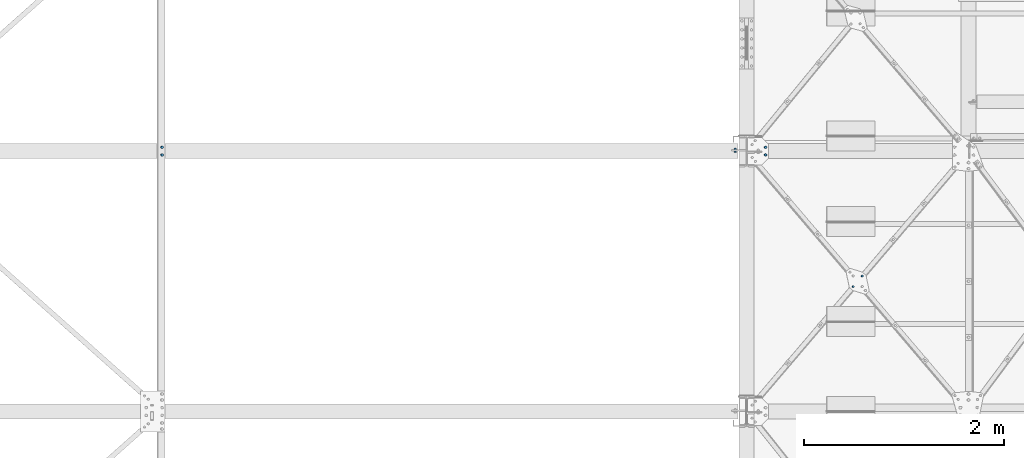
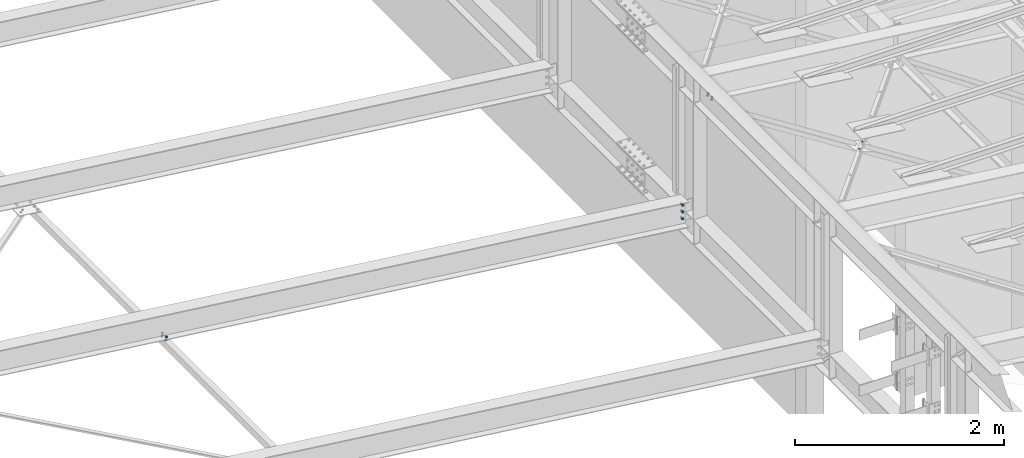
# One storey, part 374 of 3134: 4 mechanical fasteners, 4 elements without a shape of their own.
"""IFC2X3 building model written with IfcOpenShell, lengths in millimetres."""

from ifc_helpers import new_model, si_unit, frame, origin_with_axes, place, context, subcontext, project, spatial, faceted_brep, source, transform, mapped, material, type_object, element, aggregate, save


model = new_model("IFC2X3")

# Units and contexts
model_context = context("Model", 3, precision=1e-05, world=origin_with_axes())
body_context = subcontext(model_context, "Body", "Model", "MODEL_VIEW")
ifc_project = project(units=[si_unit("LENGTHUNIT", "METRE", prefix="MILLI"), si_unit("AREAUNIT", "SQUARE_METRE"), si_unit("VOLUMEUNIT", "CUBIC_METRE"), si_unit("MASSUNIT", "GRAM", prefix="KILO"), si_unit("TIMEUNIT", "SECOND"), si_unit("PLANEANGLEUNIT", "RADIAN"), si_unit("SOLIDANGLEUNIT", "STERADIAN"), si_unit("THERMODYNAMICTEMPERATUREUNIT", "DEGREE_CELSIUS"), si_unit("LUMINOUSINTENSITYUNIT", "LUMEN")], contexts=[model_context])

# Site, building, storey
site_placement = place(None, origin_with_axes())
site = spatial("IfcSite", under=ifc_project, at=site_placement, CompositionType="ELEMENT")
building_placement = place(site_placement, origin_with_axes())
building = spatial("IfcBuilding", under=site, at=building_placement, Name="Undefined", CompositionType="ELEMENT")
storey_placement = place(building_placement, origin_with_axes())
storey = spatial("IfcBuildingStorey", under=building, at=storey_placement, Name="Undefined", CompositionType="ELEMENT", Elevation=0.0)

# Assembly, mechanical fastener
assembly_1_placement = place(storey_placement, origin_with_axes())
assembly_1 = element("IfcElementAssembly", 1, at=assembly_1_placement, inside=storey, Name="300", AssemblyPlace="NOTDEFINED", PredefinedType="RIGID_FRAME")
ifc_material = material(Name="8.8")
mechanical_fastener_type = type_object("IfcMechanicalFastenerType", Name="Bolt assembly")
shared_shape_1 = source(origin_with_axes(), body_context, "Body", "Brep", [
    faceted_brep([(13.856406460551, -13.0499999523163, 0.0), (6.92820323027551, -13.0499999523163, 12.0), (-6.92820323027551, -13.0499999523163, 12.0), (-13.856406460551, -13.0499999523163, 1.69692038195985e-15), (-6.92820323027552, -13.0499999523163, -12.0), (6.9282032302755, -13.0499999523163, -12.0), (6.9282032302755, -3.04999995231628, -12.0), (-6.92820323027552, -3.04999995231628, -12.0), (-13.856406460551, -3.04999995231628, 1.69692038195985e-15), (-6.92820323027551, -3.04999995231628, 12.0), (6.92820323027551, -3.04999995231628, 12.0), (13.856406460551, -3.04999995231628, 0.0), (8.0, -3.04999995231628, 0.0), (6.92820323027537, -3.04999995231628, 4.00000000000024), (3.99999999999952, -3.04999995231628, 6.92820323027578), (-8.29068785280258e-13, -3.04999995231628, 8.0), (-4.00000000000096, -3.04999995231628, 6.92820323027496), (-6.9282032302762, -3.04999995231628, 3.99999999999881), (-8.0, -3.04999995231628, -1.65813757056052e-12), (-6.92820323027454, -3.04999995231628, -4.00000000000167), (-3.99999999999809, -3.04999995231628, -6.92820323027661), (2.47832457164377e-12, -3.04999995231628, -8.0), (4.00000000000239, -3.04999995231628, -6.92820323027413), (6.92820323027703, -3.04999995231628, -3.99999999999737), (6.92820323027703, 31.9500000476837, -3.99999999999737), (4.00000000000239, 31.9500000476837, -6.92820323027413), (2.47832457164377e-12, 31.9500000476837, -8.0), (-3.99999999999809, 31.9500000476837, -6.92820323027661), (-6.92820323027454, 31.9500000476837, -4.00000000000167), (-8.0, 31.9500000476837, -1.65813757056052e-12), (-6.9282032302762, 31.9500000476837, 3.99999999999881), (-4.00000000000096, 31.9500000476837, 6.92820323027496), (-8.29068785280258e-13, 31.9500000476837, 8.0), (3.99999999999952, 31.9500000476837, 6.92820323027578), (6.92820323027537, 31.9500000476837, 4.00000000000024), (8.0, 31.9500000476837, 0.0), (13.856406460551, 13.0500000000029, 0.0), (6.92820323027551, 13.0500000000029, 12.0), (-6.92820323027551, 13.0500000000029, 12.0), (-13.856406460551, 13.0500000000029, 1.69692038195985e-15), (-6.92820323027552, 13.0500000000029, -12.0), (6.9282032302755, 13.0500000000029, -12.0), (6.9282032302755, 26.0500000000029, -12.0), (-6.92820323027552, 26.0500000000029, -12.0), (-13.856406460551, 26.0500000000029, 1.69692038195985e-15), (-6.92820323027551, 26.0500000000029, 12.0), (6.92820323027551, 26.0500000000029, 12.0), (13.856406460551, 26.0500000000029, 0.0)], [[[0, 1, 2, 3, 4, 5]], [[6, 7, 8, 9, 10, 11]], [[0, 11, 10, 1]], [[1, 10, 9, 2]], [[2, 9, 8, 3]], [[3, 8, 7, 4]], [[4, 7, 6, 5]], [[5, 6, 11, 0]], [[12, 13, 14, 15, 16, 17, 18, 19, 20, 21, 22, 23]], [[24, 25, 26, 27, 28, 29, 30, 31, 32, 33, 34, 35]], [[12, 35, 34, 13]], [[13, 34, 33, 14]], [[14, 33, 32, 15]], [[15, 32, 31, 16]], [[16, 31, 30, 17]], [[17, 30, 29, 18]], [[18, 29, 28, 19]], [[19, 28, 27, 20]], [[20, 27, 26, 21]], [[21, 26, 25, 22]], [[22, 25, 24, 23]], [[23, 24, 35, 12]], [[36, 37, 38, 39, 40, 41]], [[42, 43, 44, 45, 46, 47]], [[36, 47, 46, 37]], [[37, 46, 45, 38]], [[38, 45, 44, 39]], [[39, 44, 43, 40]], [[40, 43, 42, 41]], [[41, 42, 47, 36]]]),
    faceted_brep([(9.0, 2.95000000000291, 0.0), (7.79422863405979, 2.95000000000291, 4.50000000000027), (4.49999999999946, 2.95000000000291, 7.79422863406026), (-9.3270238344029e-13, 2.95000000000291, 9.0), (-4.50000000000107, 2.95000000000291, 7.79422863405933), (-7.79422863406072, 2.95000000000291, 4.49999999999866), (-9.0, 2.95000000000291, -1.86540476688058e-12), (-7.79422863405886, 2.95000000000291, -4.50000000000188), (-4.49999999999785, 2.95000000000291, -7.79422863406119), (2.78811514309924e-12, 2.95000000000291, -9.0), (4.50000000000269, 2.95000000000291, -7.7942286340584), (7.79422863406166, 2.95000000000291, -4.49999999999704), (7.79422863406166, 13.0500000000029, -4.49999999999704), (4.50000000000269, 13.0500000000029, -7.7942286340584), (2.78811514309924e-12, 13.0500000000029, -9.0), (-4.49999999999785, 13.0500000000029, -7.79422863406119), (-7.79422863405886, 13.0500000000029, -4.50000000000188), (-9.0, 13.0500000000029, -1.86540476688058e-12), (-7.79422863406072, 13.0500000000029, 4.49999999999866), (-4.50000000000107, 13.0500000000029, 7.79422863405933), (-9.3270238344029e-13, 13.0500000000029, 9.0), (4.49999999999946, 13.0500000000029, 7.79422863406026), (7.79422863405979, 13.0500000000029, 4.50000000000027), (9.0, 13.0500000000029, 0.0), (9.0, -2.94999995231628, 0.0), (7.79422863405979, -2.94999995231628, 4.50000000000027), (4.49999999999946, -2.94999995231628, 7.79422863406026), (-9.3270238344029e-13, -2.94999995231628, 9.0), (-4.50000000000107, -2.94999995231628, 7.79422863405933), (-7.79422863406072, -2.94999995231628, 4.49999999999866), (-9.0, -2.94999995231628, -1.86540476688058e-12), (-7.79422863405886, -2.94999995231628, -4.50000000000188), (-4.49999999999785, -2.94999995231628, -7.79422863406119), (2.78811514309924e-12, -2.94999995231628, -9.0), (4.50000000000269, -2.94999995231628, -7.7942286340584), (7.79422863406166, -2.94999995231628, -4.49999999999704), (7.79422863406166, 3.14999995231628, -4.49999999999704), (4.50000000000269, 3.14999995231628, -7.7942286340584), (2.78811514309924e-12, 3.14999995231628, -9.0), (-4.49999999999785, 3.14999995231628, -7.79422863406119), (-7.79422863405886, 3.14999995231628, -4.50000000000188), (-9.0, 3.14999995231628, -1.86540476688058e-12), (-7.79422863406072, 3.14999995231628, 4.49999999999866), (-4.50000000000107, 3.14999995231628, 7.79422863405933), (-9.3270238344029e-13, 3.14999995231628, 9.0), (4.49999999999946, 3.14999995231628, 7.79422863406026), (7.79422863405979, 3.14999995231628, 4.50000000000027), (9.0, 3.14999995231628, 0.0)], [[[0, 1, 2, 3, 4, 5, 6, 7, 8, 9, 10, 11]], [[12, 13, 14, 15, 16, 17, 18, 19, 20, 21, 22, 23]], [[0, 23, 22, 1]], [[1, 22, 21, 2]], [[2, 21, 20, 3]], [[3, 20, 19, 4]], [[4, 19, 18, 5]], [[5, 18, 17, 6]], [[6, 17, 16, 7]], [[7, 16, 15, 8]], [[8, 15, 14, 9]], [[9, 14, 13, 10]], [[10, 13, 12, 11]], [[11, 12, 23, 0]], [[24, 25, 26, 27, 28, 29, 30, 31, 32, 33, 34, 35]], [[36, 37, 38, 39, 40, 41, 42, 43, 44, 45, 46, 47]], [[24, 47, 46, 25]], [[25, 46, 45, 26]], [[26, 45, 44, 27]], [[27, 44, 43, 28]], [[28, 43, 42, 29]], [[29, 42, 41, 30]], [[30, 41, 40, 31]], [[31, 40, 39, 32]], [[32, 39, 38, 33]], [[33, 38, 37, 34]], [[34, 37, 36, 35]], [[35, 36, 47, 24]]]),
])
mechanical_fastener_1_placement = place(assembly_1_placement, frame((67435.0, 27250.0, 4337.44269270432), z_axis=(1.0, 0.0, 0.0), x_axis=(0.0, 0.0, -1.0)))
mechanical_fastener_1 = element("IfcMechanicalFastener", 2, at=mechanical_fastener_1_placement, type_object=mechanical_fastener_type, material=ifc_material, Name="Bolt assembly", NominalDiameter=16.0, NominalLength=35.0, context=body_context, shape_type="MappedRepresentation", body=[
    mapped(shared_shape_1, transform((0.0, 0.0, 0.0))),
    mapped(shared_shape_1, transform((80.0, 0.0, 0.0))),
    mapped(shared_shape_1, transform((160.0, 0.0, 0.0))),
])
aggregate(assembly_1, [mechanical_fastener_1])

assembly_2_placement = place(storey_placement, origin_with_axes())
assembly_2 = element("IfcElementAssembly", 3, at=assembly_2_placement, inside=storey, AssemblyPlace="NOTDEFINED", PredefinedType="RIGID_FRAME")
shared_shape_2 = source(origin_with_axes(), body_context, "Body", "Brep", [
    faceted_brep([(13.856406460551, -19.199990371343, 0.0), (6.92820323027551, -19.199990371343, 12.0), (-6.92820323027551, -19.199990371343, 12.0), (-13.856406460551, -19.199990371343, 1.69692038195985e-15), (-6.92820323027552, -19.199990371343, -12.0), (6.9282032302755, -19.199990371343, -12.0), (6.9282032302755, -9.19999037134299, -12.0), (-6.92820323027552, -9.19999037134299, -12.0), (-13.856406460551, -9.19999037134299, 1.69692038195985e-15), (-6.92820323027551, -9.19999037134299, 12.0), (6.92820323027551, -9.19999037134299, 12.0), (13.856406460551, -9.19999037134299, 0.0), (8.0, -9.19999037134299, 0.0), (6.92820323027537, -9.19999037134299, 4.00000000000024), (3.99999999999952, -9.19999037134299, 6.92820323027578), (-8.29068785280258e-13, -9.19999037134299, 8.0), (-4.00000000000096, -9.19999037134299, 6.92820323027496), (-6.9282032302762, -9.19999037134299, 3.99999999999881), (-8.0, -9.19999037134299, -1.65813757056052e-12), (-6.92820323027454, -9.19999037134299, -4.00000000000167), (-3.99999999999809, -9.19999037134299, -6.92820323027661), (2.47832457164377e-12, -9.19999037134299, -8.0), (4.00000000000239, -9.19999037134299, -6.92820323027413), (6.92820323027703, -9.19999037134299, -3.99999999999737), (6.92820323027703, 35.8000002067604, -3.99999999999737), (4.00000000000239, 35.8000002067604, -6.92820323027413), (2.47832457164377e-12, 35.8000002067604, -8.0), (-3.99999999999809, 35.8000002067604, -6.92820323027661), (-6.92820323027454, 35.8000002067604, -4.00000000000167), (-8.0, 35.8000002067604, -1.65813757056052e-12), (-6.9282032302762, 35.8000002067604, 3.99999999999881), (-4.00000000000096, 35.8000002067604, 6.92820323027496), (-8.29068785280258e-13, 35.8000002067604, 8.0), (3.99999999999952, 35.8000002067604, 6.92820323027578), (6.92820323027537, 35.8000002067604, 4.00000000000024), (8.0, 35.8000002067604, 0.0), (13.856406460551, 14.9999995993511, 0.0), (6.92820323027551, 14.9999995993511, 12.0), (-6.92820323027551, 14.9999995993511, 12.0), (-13.856406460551, 14.9999995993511, 1.69692038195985e-15), (-6.92820323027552, 14.9999995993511, -12.0), (6.9282032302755, 14.9999995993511, -12.0), (6.9282032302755, 27.9999995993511, -12.0), (-6.92820323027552, 27.9999995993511, -12.0), (-13.856406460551, 27.9999995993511, 1.69692038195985e-15), (-6.92820323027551, 27.9999995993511, 12.0), (6.92820323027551, 27.9999995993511, 12.0), (13.856406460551, 27.9999995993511, 0.0)], [[[0, 1, 2, 3, 4, 5]], [[6, 7, 8, 9, 10, 11]], [[0, 11, 10, 1]], [[1, 10, 9, 2]], [[2, 9, 8, 3]], [[3, 8, 7, 4]], [[4, 7, 6, 5]], [[5, 6, 11, 0]], [[12, 13, 14, 15, 16, 17, 18, 19, 20, 21, 22, 23]], [[24, 25, 26, 27, 28, 29, 30, 31, 32, 33, 34, 35]], [[12, 35, 34, 13]], [[13, 34, 33, 14]], [[14, 33, 32, 15]], [[15, 32, 31, 16]], [[16, 31, 30, 17]], [[17, 30, 29, 18]], [[18, 29, 28, 19]], [[19, 28, 27, 20]], [[20, 27, 26, 21]], [[21, 26, 25, 22]], [[22, 25, 24, 23]], [[23, 24, 35, 12]], [[36, 37, 38, 39, 40, 41]], [[42, 43, 44, 45, 46, 47]], [[36, 47, 46, 37]], [[37, 46, 45, 38]], [[38, 45, 44, 39]], [[39, 44, 43, 40]], [[40, 43, 42, 41]], [[41, 42, 47, 36]]]),
    faceted_brep([(9.0, -9.09999037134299, 0.0), (7.79422863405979, -9.09999037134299, 4.50000000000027), (4.49999999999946, -9.09999037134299, 7.79422863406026), (-9.3270238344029e-13, -9.09999037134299, 9.0), (-4.50000000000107, -9.09999037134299, 7.79422863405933), (-7.79422863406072, -9.09999037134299, 4.49999999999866), (-9.0, -9.09999037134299, -1.86540476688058e-12), (-7.79422863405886, -9.09999037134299, -4.50000000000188), (-4.49999999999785, -9.09999037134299, -7.79422863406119), (2.78811514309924e-12, -9.09999037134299, -9.0), (4.50000000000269, -9.09999037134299, -7.7942286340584), (7.79422863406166, -9.09999037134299, -4.49999999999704), (7.79422863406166, 0.100000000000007, -4.49999999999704), (4.50000000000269, 0.100000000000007, -7.7942286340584), (2.78811514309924e-12, 0.100000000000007, -9.0), (-4.49999999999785, 0.100000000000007, -7.79422863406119), (-7.79422863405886, 0.100000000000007, -4.50000000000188), (-9.0, 0.100000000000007, -1.86540476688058e-12), (-7.79422863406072, 0.100000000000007, 4.49999999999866), (-4.50000000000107, 0.100000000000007, 7.79422863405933), (-9.3270238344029e-13, 0.100000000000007, 9.0), (4.49999999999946, 0.100000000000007, 7.79422863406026), (7.79422863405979, 0.100000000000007, 4.50000000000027), (9.0, 0.100000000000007, 0.0), (9.0, 7.9, 0.0), (7.79422863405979, 7.9, 4.50000000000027), (4.49999999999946, 7.9, 7.79422863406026), (-9.3270238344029e-13, 7.9, 9.0), (-4.50000000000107, 7.9, 7.79422863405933), (-7.79422863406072, 7.9, 4.49999999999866), (-9.0, 7.9, -1.86540476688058e-12), (-7.79422863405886, 7.9, -4.50000000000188), (-4.49999999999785, 7.9, -7.79422863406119), (2.78811514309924e-12, 7.9, -9.0), (4.50000000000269, 7.9, -7.7942286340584), (7.79422863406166, 7.9, -4.49999999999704), (7.79422863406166, 14.9999995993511, -4.49999999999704), (4.50000000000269, 14.9999995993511, -7.7942286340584), (2.78811514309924e-12, 14.9999995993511, -9.0), (-4.49999999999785, 14.9999995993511, -7.79422863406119), (-7.79422863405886, 14.9999995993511, -4.50000000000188), (-9.0, 14.9999995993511, -1.86540476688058e-12), (-7.79422863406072, 14.9999995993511, 4.49999999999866), (-4.50000000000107, 14.9999995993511, 7.79422863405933), (-9.3270238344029e-13, 14.9999995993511, 9.0), (4.49999999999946, 14.9999995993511, 7.79422863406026), (7.79422863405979, 14.9999995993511, 4.50000000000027), (9.0, 14.9999995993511, 0.0)], [[[0, 1, 2, 3, 4, 5, 6, 7, 8, 9, 10, 11]], [[12, 13, 14, 15, 16, 17, 18, 19, 20, 21, 22, 23]], [[0, 23, 22, 1]], [[1, 22, 21, 2]], [[2, 21, 20, 3]], [[3, 20, 19, 4]], [[4, 19, 18, 5]], [[5, 18, 17, 6]], [[6, 17, 16, 7]], [[7, 16, 15, 8]], [[8, 15, 14, 9]], [[9, 14, 13, 10]], [[10, 13, 12, 11]], [[11, 12, 23, 0]], [[24, 25, 26, 27, 28, 29, 30, 31, 32, 33, 34, 35]], [[36, 37, 38, 39, 40, 41, 42, 43, 44, 45, 46, 47]], [[24, 47, 46, 25]], [[25, 46, 45, 26]], [[26, 45, 44, 27]], [[27, 44, 43, 28]], [[28, 43, 42, 29]], [[29, 42, 41, 30]], [[30, 41, 40, 31]], [[31, 40, 39, 32]], [[32, 39, 38, 33]], [[33, 38, 37, 34]], [[34, 37, 36, 35]], [[35, 36, 47, 24]]]),
])
mechanical_fastener_2_placement = place(assembly_2_placement, frame((61712.9849612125, 27212.0, 4806.73358922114), z_axis=(-0.992623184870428, 0.0, 0.121240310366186), x_axis=(0.0, 1.0, 0.0)))
mechanical_fastener_2 = element("IfcMechanicalFastener", 4, at=mechanical_fastener_2_placement, type_object=mechanical_fastener_type, material=ifc_material, Name="Bolt assembly", NominalDiameter=16.0, NominalLength=45.0, context=body_context, shape_type="MappedRepresentation", body=[
    mapped(shared_shape_2, transform((0.0, 0.0, 0.0))),
    mapped(shared_shape_2, transform((76.0, 0.0, 0.0))),
])
aggregate(assembly_2, [mechanical_fastener_2])

assembly_3_placement = place(storey_placement, origin_with_axes())
assembly_3 = element("IfcElementAssembly", 5, at=assembly_3_placement, inside=storey, AssemblyPlace="NOTDEFINED", PredefinedType="RIGID_FRAME")
shared_shape_3 = source(origin_with_axes(), body_context, "Body", "Brep", [
    faceted_brep([(10.9696551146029, -17.0000000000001, 0.0), (5.48482755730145, -17.0000000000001, 9.5), (-5.48482755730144, -17.0000000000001, 9.5), (-10.9696551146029, -17.0000000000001, 1.34339530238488e-15), (-5.48482755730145, -17.0000000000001, -9.5), (5.48482755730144, -17.0000000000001, -9.50000000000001), (5.48482755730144, -9.00000000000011, -9.50000000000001), (-5.48482755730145, -9.00000000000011, -9.5), (-10.9696551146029, -9.00000000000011, 1.34339530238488e-15), (-5.48482755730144, -9.00000000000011, 9.5), (5.48482755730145, -9.00000000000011, 9.5), (10.9696551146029, -9.00000000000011, 0.0), (6.0, -9.00000000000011, 0.0), (5.19615242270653, -9.00000000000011, 3.00000000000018), (2.99999999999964, -9.00000000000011, 5.19615242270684), (-6.21801588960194e-13, -9.00000000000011, 6.0), (-3.00000000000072, -9.00000000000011, 5.19615242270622), (-5.19615242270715, -9.00000000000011, 2.9999999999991), (-6.0, -9.00000000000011, -1.24360317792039e-12), (-5.19615242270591, -9.00000000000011, -3.00000000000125), (-2.99999999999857, -9.00000000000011, -5.19615242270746), (1.85874342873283e-12, -9.00000000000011, -6.0), (3.00000000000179, -9.00000000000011, -5.1961524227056), (5.19615242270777, -9.00000000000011, -2.99999999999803), (5.19615242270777, 26.0, -2.99999999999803), (3.00000000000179, 26.0, -5.1961524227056), (1.85874342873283e-12, 26.0, -6.0), (-2.99999999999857, 26.0, -5.19615242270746), (-5.19615242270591, 26.0, -3.00000000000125), (-6.0, 26.0, -1.24360317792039e-12), (-5.19615242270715, 26.0, 2.9999999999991), (-3.00000000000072, 26.0, 5.19615242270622), (-6.21801588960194e-13, 26.0, 6.0), (2.99999999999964, 26.0, 5.19615242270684), (5.19615242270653, 26.0, 3.00000000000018), (6.0, 26.0, 0.0), (10.9696551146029, 9.00000000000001, 0.0), (5.48482755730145, 9.00000000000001, 9.5), (-5.48482755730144, 9.00000000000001, 9.5), (-10.9696551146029, 9.00000000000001, 1.34339530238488e-15), (-5.48482755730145, 9.00000000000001, -9.5), (5.48482755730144, 9.00000000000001, -9.50000000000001), (5.48482755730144, 19.0, -9.50000000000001), (-5.48482755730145, 19.0, -9.5), (-10.9696551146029, 19.0, 1.34339530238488e-15), (-5.48482755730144, 19.0, 9.5), (5.48482755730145, 19.0, 9.5), (10.9696551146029, 19.0, 0.0)], [[[0, 1, 2, 3, 4, 5]], [[6, 7, 8, 9, 10, 11]], [[0, 11, 10, 1]], [[1, 10, 9, 2]], [[2, 9, 8, 3]], [[3, 8, 7, 4]], [[4, 7, 6, 5]], [[5, 6, 11, 0]], [[12, 13, 14, 15, 16, 17, 18, 19, 20, 21, 22, 23]], [[24, 25, 26, 27, 28, 29, 30, 31, 32, 33, 34, 35]], [[12, 35, 34, 13]], [[13, 34, 33, 14]], [[14, 33, 32, 15]], [[15, 32, 31, 16]], [[16, 31, 30, 17]], [[17, 30, 29, 18]], [[18, 29, 28, 19]], [[19, 28, 27, 20]], [[20, 27, 26, 21]], [[21, 26, 25, 22]], [[22, 25, 24, 23]], [[23, 24, 35, 12]], [[36, 37, 38, 39, 40, 41]], [[42, 43, 44, 45, 46, 47]], [[36, 47, 46, 37]], [[37, 46, 45, 38]], [[38, 45, 44, 39]], [[39, 44, 43, 40]], [[40, 43, 42, 41]], [[41, 42, 47, 36]]]),
    faceted_brep([(7.0, 3.89999713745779, 0.0), (6.06217782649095, 3.89999713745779, 3.50000000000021), (3.49999999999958, 3.89999713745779, 6.06217782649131), (-7.25435187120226e-13, 3.89999713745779, 7.0), (-3.50000000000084, 3.89999713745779, 6.06217782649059), (-6.06217782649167, 3.89999713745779, 3.49999999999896), (-7.0, 3.89999713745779, -1.45087037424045e-12), (-6.06217782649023, 3.89999713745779, -3.50000000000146), (-3.49999999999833, 3.89999713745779, -6.06217782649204), (2.1685340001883e-12, 3.89999713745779, -7.0), (3.50000000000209, 3.89999713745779, -6.06217782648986), (6.0621778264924, 3.89999713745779, -3.4999999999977), (6.0621778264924, 9.00000000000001, -3.4999999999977), (3.50000000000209, 9.00000000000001, -6.06217782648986), (2.1685340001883e-12, 9.00000000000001, -7.0), (-3.49999999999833, 9.00000000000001, -6.06217782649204), (-6.06217782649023, 9.00000000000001, -3.50000000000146), (-7.0, 9.00000000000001, -1.45087037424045e-12), (-6.06217782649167, 9.00000000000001, 3.49999999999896), (-3.50000000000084, 9.00000000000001, 6.06217782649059), (-7.25435187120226e-13, 9.00000000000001, 7.0), (3.49999999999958, 9.00000000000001, 6.06217782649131), (6.06217782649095, 9.00000000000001, 3.50000000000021), (7.0, 9.00000000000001, 0.0), (7.0, -8.90000000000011, 0.0), (6.06217782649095, -8.90000000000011, 3.50000000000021), (3.49999999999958, -8.90000000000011, 6.06217782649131), (-7.25435187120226e-13, -8.90000000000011, 7.0), (-3.50000000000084, -8.90000000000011, 6.06217782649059), (-6.06217782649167, -8.90000000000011, 3.49999999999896), (-7.0, -8.90000000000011, -1.45087037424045e-12), (-6.06217782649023, -8.90000000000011, -3.50000000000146), (-3.49999999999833, -8.90000000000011, -6.06217782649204), (2.1685340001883e-12, -8.90000000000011, -7.0), (3.50000000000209, -8.90000000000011, -6.06217782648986), (6.0621778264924, -8.90000000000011, -3.4999999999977), (6.0621778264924, -3.9, -3.4999999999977), (3.50000000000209, -3.9, -6.06217782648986), (2.1685340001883e-12, -3.9, -7.0), (-3.49999999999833, -3.9, -6.06217782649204), (-6.06217782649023, -3.9, -3.50000000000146), (-7.0, -3.9, -1.45087037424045e-12), (-6.06217782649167, -3.9, 3.49999999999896), (-3.50000000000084, -3.9, 6.06217782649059), (-7.25435187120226e-13, -3.9, 7.0), (3.49999999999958, -3.9, 6.06217782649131), (6.06217782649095, -3.9, 3.50000000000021), (7.0, -3.9, 0.0), (7.0, -4.00000018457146, 0.0), (6.06217782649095, -4.00000018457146, 3.50000000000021), (3.49999999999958, -4.00000018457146, 6.06217782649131), (-7.25435187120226e-13, -4.00000018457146, 7.0), (-3.50000000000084, -4.00000018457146, 6.06217782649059), (-6.06217782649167, -4.00000018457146, 3.49999999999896), (-7.0, -4.00000018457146, -1.45087037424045e-12), (-6.06217782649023, -4.00000018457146, -3.50000000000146), (-3.49999999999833, -4.00000018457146, -6.06217782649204), (2.1685340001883e-12, -4.00000018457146, -7.0), (3.50000000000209, -4.00000018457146, -6.06217782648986), (6.0621778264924, -4.00000018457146, -3.4999999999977), (6.0621778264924, 4.00000000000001, -3.4999999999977), (3.50000000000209, 4.00000000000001, -6.06217782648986), (2.1685340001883e-12, 4.00000000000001, -7.0), (-3.49999999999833, 4.00000000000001, -6.06217782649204), (-6.06217782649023, 4.00000000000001, -3.50000000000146), (-7.0, 4.00000000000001, -1.45087037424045e-12), (-6.06217782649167, 4.00000000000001, 3.49999999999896), (-3.50000000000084, 4.00000000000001, 6.06217782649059), (-7.25435187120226e-13, 4.00000000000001, 7.0), (3.49999999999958, 4.00000000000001, 6.06217782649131), (6.06217782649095, 4.00000000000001, 3.50000000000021), (7.0, 4.00000000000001, 0.0)], [[[0, 1, 2, 3, 4, 5, 6, 7, 8, 9, 10, 11]], [[12, 13, 14, 15, 16, 17, 18, 19, 20, 21, 22, 23]], [[0, 23, 22, 1]], [[1, 22, 21, 2]], [[2, 21, 20, 3]], [[3, 20, 19, 4]], [[4, 19, 18, 5]], [[5, 18, 17, 6]], [[6, 17, 16, 7]], [[7, 16, 15, 8]], [[8, 15, 14, 9]], [[9, 14, 13, 10]], [[10, 13, 12, 11]], [[11, 12, 23, 0]], [[24, 25, 26, 27, 28, 29, 30, 31, 32, 33, 34, 35]], [[36, 37, 38, 39, 40, 41, 42, 43, 44, 45, 46, 47]], [[24, 47, 46, 25]], [[25, 46, 45, 26]], [[26, 45, 44, 27]], [[27, 44, 43, 28]], [[28, 43, 42, 29]], [[29, 42, 41, 30]], [[30, 41, 40, 31]], [[31, 40, 39, 32]], [[32, 39, 38, 33]], [[33, 38, 37, 34]], [[34, 37, 36, 35]], [[35, 36, 47, 24]], [[48, 49, 50, 51, 52, 53, 54, 55, 56, 57, 58, 59]], [[60, 61, 62, 63, 64, 65, 66, 67, 68, 69, 70, 71]], [[48, 71, 70, 49]], [[49, 70, 69, 50]], [[50, 69, 68, 51]], [[51, 68, 67, 52]], [[52, 67, 66, 53]], [[53, 66, 65, 54]], [[54, 65, 64, 55]], [[55, 64, 63, 56]], [[56, 63, 62, 57]], [[57, 62, 61, 58]], [[58, 61, 60, 59]], [[59, 60, 71, 48]]]),
])
mechanical_fastener_3_placement = place(assembly_3_placement, frame((68702.7520634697, 26003.118902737, 5374.96441366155), z_axis=(0.753242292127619, -0.651276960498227, -0.0920020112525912), x_axis=(-0.646472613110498, -0.758840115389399, 0.0789610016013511)))
mechanical_fastener_3 = element("IfcMechanicalFastener", 6, at=mechanical_fastener_3_placement, type_object=mechanical_fastener_type, material=ifc_material, Name="Bolt assembly", NominalDiameter=12.0, NominalLength=35.0, context=body_context, shape_type="MappedRepresentation", body=[
    mapped(shared_shape_3, transform((0.0, 0.0, 0.0))),
    mapped(shared_shape_3, transform((140.0, 0.0, 0.0))),
])
aggregate(assembly_3, [mechanical_fastener_3])

assembly_4_placement = place(storey_placement, origin_with_axes())
assembly_4 = element("IfcElementAssembly", 7, at=assembly_4_placement, inside=storey, Name="300", AssemblyPlace="NOTDEFINED", PredefinedType="RIGID_FRAME")
shared_shape_4 = source(origin_with_axes(), body_context, "Body", "Brep", [
    faceted_brep([(13.856406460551, -19.2007835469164, 0.0), (6.92820323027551, -19.2007835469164, 12.0), (-6.92820323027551, -19.2007835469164, 12.0), (-13.856406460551, -19.2007835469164, 1.69692038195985e-15), (-6.92820323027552, -19.2007835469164, -12.0), (6.9282032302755, -19.2007835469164, -12.0), (6.9282032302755, -9.20078354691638, -12.0), (-6.92820323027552, -9.20078354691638, -12.0), (-13.856406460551, -9.20078354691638, 1.69692038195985e-15), (-6.92820323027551, -9.20078354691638, 12.0), (6.92820323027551, -9.20078354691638, 12.0), (13.856406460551, -9.20078354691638, 0.0), (8.0, -9.20078354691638, 0.0), (6.92820323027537, -9.20078354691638, 4.00000000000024), (3.99999999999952, -9.20078354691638, 6.92820323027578), (-8.29068785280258e-13, -9.20078354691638, 8.0), (-4.00000000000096, -9.20078354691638, 6.92820323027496), (-6.9282032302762, -9.20078354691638, 3.99999999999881), (-8.0, -9.20078354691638, -1.65813757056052e-12), (-6.92820323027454, -9.20078354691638, -4.00000000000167), (-3.99999999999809, -9.20078354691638, -6.92820323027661), (2.47832457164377e-12, -9.20078354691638, -8.0), (4.00000000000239, -9.20078354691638, -6.92820323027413), (6.92820323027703, -9.20078354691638, -3.99999999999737), (6.92820323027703, 25.7992164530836, -3.99999999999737), (4.00000000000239, 25.7992164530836, -6.92820323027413), (2.47832457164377e-12, 25.7992164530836, -8.0), (-3.99999999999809, 25.7992164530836, -6.92820323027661), (-6.92820323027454, 25.7992164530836, -4.00000000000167), (-8.0, 25.7992164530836, -1.65813757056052e-12), (-6.9282032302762, 25.7992164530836, 3.99999999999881), (-4.00000000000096, 25.7992164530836, 6.92820323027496), (-8.29068785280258e-13, 25.7992164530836, 8.0), (3.99999999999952, 25.7992164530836, 6.92820323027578), (6.92820323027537, 25.7992164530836, 4.00000000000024), (8.0, 25.7992164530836, 0.0), (13.856406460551, 8.00000637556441, 0.0), (6.92820323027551, 8.00000637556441, 12.0), (-6.92820323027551, 8.00000637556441, 12.0), (-13.856406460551, 8.00000637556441, 1.69692038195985e-15), (-6.92820323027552, 8.00000637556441, -12.0), (6.9282032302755, 8.00000637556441, -12.0), (6.9282032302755, 21.0000063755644, -12.0), (-6.92820323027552, 21.0000063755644, -12.0), (-13.856406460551, 21.0000063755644, 1.69692038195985e-15), (-6.92820323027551, 21.0000063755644, 12.0), (6.92820323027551, 21.0000063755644, 12.0), (13.856406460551, 21.0000063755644, 0.0)], [[[0, 1, 2, 3, 4, 5]], [[6, 7, 8, 9, 10, 11]], [[0, 11, 10, 1]], [[1, 10, 9, 2]], [[2, 9, 8, 3]], [[3, 8, 7, 4]], [[4, 7, 6, 5]], [[5, 6, 11, 0]], [[12, 13, 14, 15, 16, 17, 18, 19, 20, 21, 22, 23]], [[24, 25, 26, 27, 28, 29, 30, 31, 32, 33, 34, 35]], [[12, 35, 34, 13]], [[13, 34, 33, 14]], [[14, 33, 32, 15]], [[15, 32, 31, 16]], [[16, 31, 30, 17]], [[17, 30, 29, 18]], [[18, 29, 28, 19]], [[19, 28, 27, 20]], [[20, 27, 26, 21]], [[21, 26, 25, 22]], [[22, 25, 24, 23]], [[23, 24, 35, 12]], [[36, 37, 38, 39, 40, 41]], [[42, 43, 44, 45, 46, 47]], [[36, 47, 46, 37]], [[37, 46, 45, 38]], [[38, 45, 44, 39]], [[39, 44, 43, 40]], [[40, 43, 42, 41]], [[41, 42, 47, 36]]]),
    faceted_brep([(9.0, -0.1, 0.0), (7.79422863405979, -0.1, 4.50000000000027), (4.49999999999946, -0.1, 7.79422863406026), (-9.3270238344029e-13, -0.1, 9.0), (-4.50000000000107, -0.1, 7.79422863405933), (-7.79422863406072, -0.1, 4.49999999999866), (-9.0, -0.1, -1.86540476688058e-12), (-7.79422863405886, -0.1, -4.50000000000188), (-4.49999999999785, -0.1, -7.79422863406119), (2.78811514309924e-12, -0.1, -9.0), (4.50000000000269, -0.1, -7.7942286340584), (7.79422863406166, -0.1, -4.49999999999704), (7.79422863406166, 8.00000000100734, -4.49999999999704), (4.50000000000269, 8.00000000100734, -7.7942286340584), (2.78811514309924e-12, 8.00000000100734, -9.0), (-4.49999999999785, 8.00000000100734, -7.79422863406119), (-7.79422863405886, 8.00000000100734, -4.50000000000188), (-9.0, 8.00000000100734, -1.86540476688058e-12), (-7.79422863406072, 8.00000000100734, 4.49999999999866), (-4.50000000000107, 8.00000000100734, 7.79422863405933), (-9.3270238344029e-13, 8.00000000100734, 9.0), (4.49999999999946, 8.00000000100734, 7.79422863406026), (7.79422863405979, 8.00000000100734, 4.50000000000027), (9.0, 8.00000000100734, 0.0), (9.0, -9.10078354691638, 0.0), (7.79422863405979, -9.10078354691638, 4.50000000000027), (4.49999999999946, -9.10078354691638, 7.79422863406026), (-9.3270238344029e-13, -9.10078354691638, 9.0), (-4.50000000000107, -9.10078354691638, 7.79422863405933), (-7.79422863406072, -9.10078354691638, 4.49999999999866), (-9.0, -9.10078354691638, -1.86540476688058e-12), (-7.79422863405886, -9.10078354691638, -4.50000000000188), (-4.49999999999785, -9.10078354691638, -7.79422863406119), (2.78811514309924e-12, -9.10078354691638, -9.0), (4.50000000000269, -9.10078354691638, -7.7942286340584), (7.79422863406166, -9.10078354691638, -4.49999999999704), (7.79422863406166, 0.099199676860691, -4.49999999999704), (4.50000000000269, 0.099199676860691, -7.7942286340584), (2.78811514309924e-12, 0.099199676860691, -9.0), (-4.49999999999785, 0.099199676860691, -7.79422863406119), (-7.79422863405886, 0.099199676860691, -4.50000000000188), (-9.0, 0.099199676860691, -1.86540476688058e-12), (-7.79422863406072, 0.099199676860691, 4.49999999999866), (-4.50000000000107, 0.099199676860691, 7.79422863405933), (-9.3270238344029e-13, 0.099199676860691, 9.0), (4.49999999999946, 0.099199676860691, 7.79422863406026), (7.79422863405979, 0.099199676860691, 4.50000000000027), (9.0, 0.099199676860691, 0.0)], [[[0, 1, 2, 3, 4, 5, 6, 7, 8, 9, 10, 11]], [[12, 13, 14, 15, 16, 17, 18, 19, 20, 21, 22, 23]], [[0, 23, 22, 1]], [[1, 22, 21, 2]], [[2, 21, 20, 3]], [[3, 20, 19, 4]], [[4, 19, 18, 5]], [[5, 18, 17, 6]], [[6, 17, 16, 7]], [[7, 16, 15, 8]], [[8, 15, 14, 9]], [[9, 14, 13, 10]], [[10, 13, 12, 11]], [[11, 12, 23, 0]], [[24, 25, 26, 27, 28, 29, 30, 31, 32, 33, 34, 35]], [[36, 37, 38, 39, 40, 41, 42, 43, 44, 45, 46, 47]], [[24, 47, 46, 25]], [[25, 46, 45, 26]], [[26, 45, 44, 27]], [[27, 44, 43, 28]], [[28, 43, 42, 29]], [[29, 42, 41, 30]], [[30, 41, 40, 31]], [[31, 40, 39, 32]], [[32, 39, 38, 33]], [[33, 38, 37, 34]], [[34, 37, 36, 35]], [[35, 36, 47, 24]]]),
])
mechanical_fastener_4_placement = place(assembly_4_placement, frame((67739.2290255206, 27287.9995130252, 5496.67949210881), z_axis=(0.992623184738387, 1.63108538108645e-05, -0.12124031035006), x_axis=(1.62000016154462e-05, -0.999999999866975, -1.90000018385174e-06)))
mechanical_fastener_4 = element("IfcMechanicalFastener", 8, at=mechanical_fastener_4_placement, type_object=mechanical_fastener_type, material=ifc_material, Name="Bolt assembly", NominalDiameter=16.0, NominalLength=35.0, context=body_context, shape_type="MappedRepresentation", body=[
    mapped(shared_shape_4, transform((0.0, 0.0, 0.0))),
    mapped(shared_shape_4, transform((76.0, 0.0, 0.0))),
])
aggregate(assembly_4, [mechanical_fastener_4])

save(model, "model.ifc")
